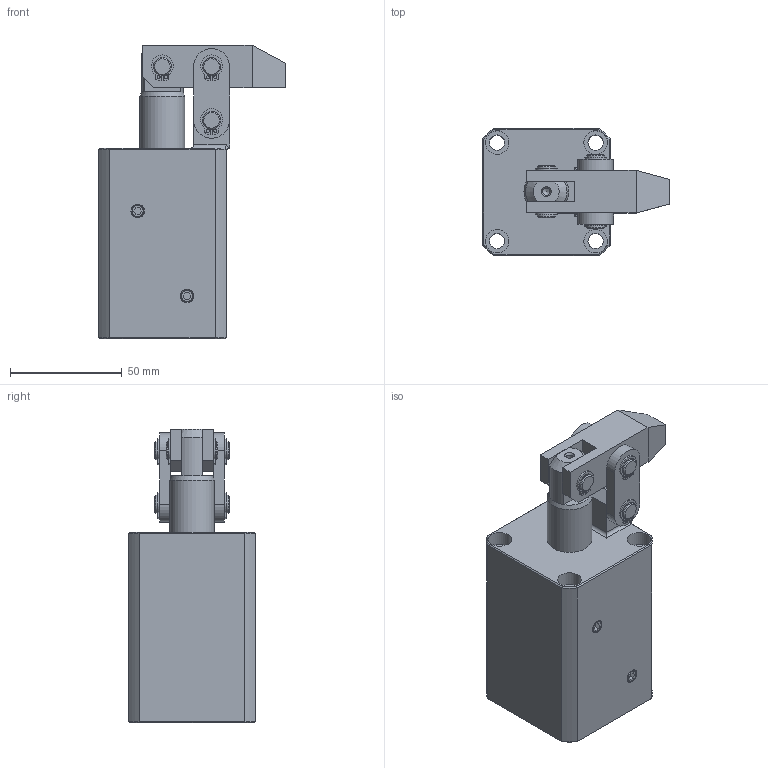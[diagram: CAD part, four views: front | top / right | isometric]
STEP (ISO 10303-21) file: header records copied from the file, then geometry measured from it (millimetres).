
FILE_DESCRIPTION(/* description */ ('Unknown'),/* implementation_level */ '2;1');
FILE_NAME(/* name */ 'HLC-M32-A',/* time_stamp */ '2022-11-23T04:17:29+08:00',/* author */ ('Unknown'),/* organization */ ('Unknown'),/* preprocessor_version */ 'ST-DEVELOPER v16.7',/* originating_system */ 'DEX',/* authorisation */ $);
FILE_SCHEMA (('AUTOMOTIVE_DESIGN {1 0 10303 214 3 1 1}'));
Length unit declared in the file: millimetre
Products named in the file (8): HLC-M32-A; HLC-M32-CYLINDER; HLC-3202-AXLE CENTRE; HLC-32-A; HLC-32-PINªø-; HLC-32-PINµu; HLC-32-墊; HLC-32-C扣
Assembly tree (14 placements, depth 2):
  HLC-M32-A
    HLC-M32-CYLINDER
    HLC-3202-AXLE CENTRE
    HLC-32-A
    HLC-32-PINªø-  x2
    HLC-32-PINµu
    HLC-32-墊  x2
    HLC-32-C扣  x6
Bounding box: 83.5 x 57 x 131 mm (x, y, z)
Volume: 277919.8 mm3; surface area: 62108 mm2
Topology: 14 solids, 14 shells, 287 faces, 672 edges, 441 vertices
Faces by surface type: plane 133, cylinder 123, cone 29, torus 2
Full cylindrical faces by diameter (mm): 1.4 x12, 3.2 x1, 4.1 x2, 5 x2, 6.8 x4, 7.5 x6, 8 x18, 10 x2, 10.5 x4, 20 x2, 31.5 x1, 32 x1
Entity records: 5110 total; most frequent: CARTESIAN_POINT 893, DIRECTION 867, ORIENTED_EDGE 690, AXIS2_PLACEMENT_3D 351, EDGE_CURVE 345, FACE_BOUND 296, EDGE_LOOP 293, VERTEX_POINT 257
